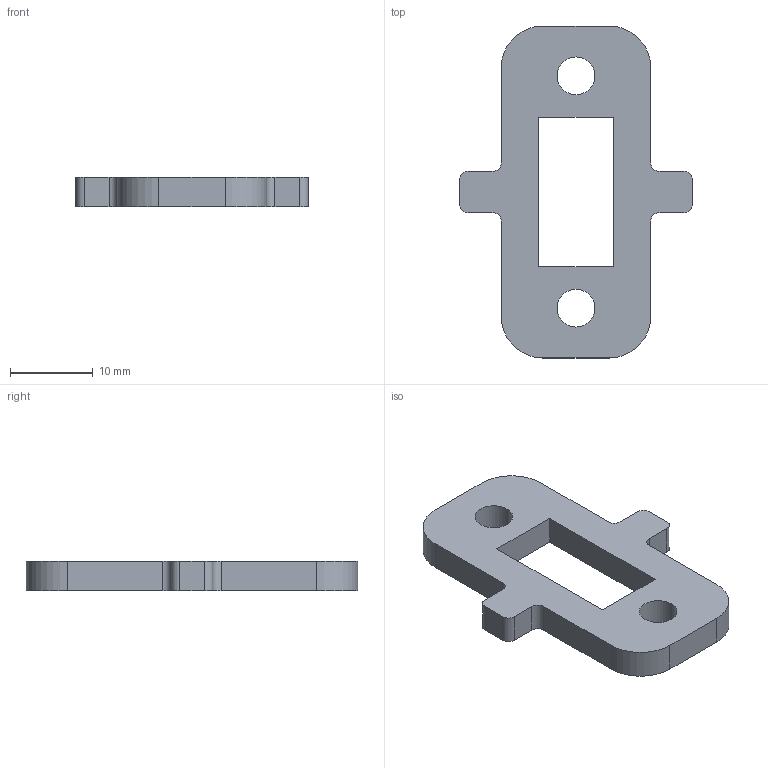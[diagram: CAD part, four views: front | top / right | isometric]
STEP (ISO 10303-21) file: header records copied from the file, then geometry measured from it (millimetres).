
FILE_DESCRIPTION(('CATIA V5 STEP Exchange'),'2;1');
FILE_NAME('C:\Users\zhook\Desktop\Jove\Lower housing.stp','2023-08-13T18:48:01+00:00',('none'),('none'),'CATIA Version 5 Release 21 GA (IN-10)','CATIA V5 STEP AP203','none');
FILE_SCHEMA(('CONFIG_CONTROL_DESIGN'));
Length unit declared in the file: millimetre
Products named in the file (1): Lower housing
Bounding box: 28 x 40 x 3.5 mm (x, y, z)
Volume: 1939.1 mm3; surface area: 1831 mm2
Topology: 1 solids, 1 shells, 34 faces, 96 edges, 64 vertices
Faces by surface type: plane 18, cylinder 16
Entity records: 1104 total; most frequent: ORIENTED_EDGE 192, CARTESIAN_POINT 189, DIRECTION 152, EDGE_CURVE 96, VECTOR 64, LINE 64, VERTEX_POINT 64, AXIS2_PLACEMENT_3D 61
